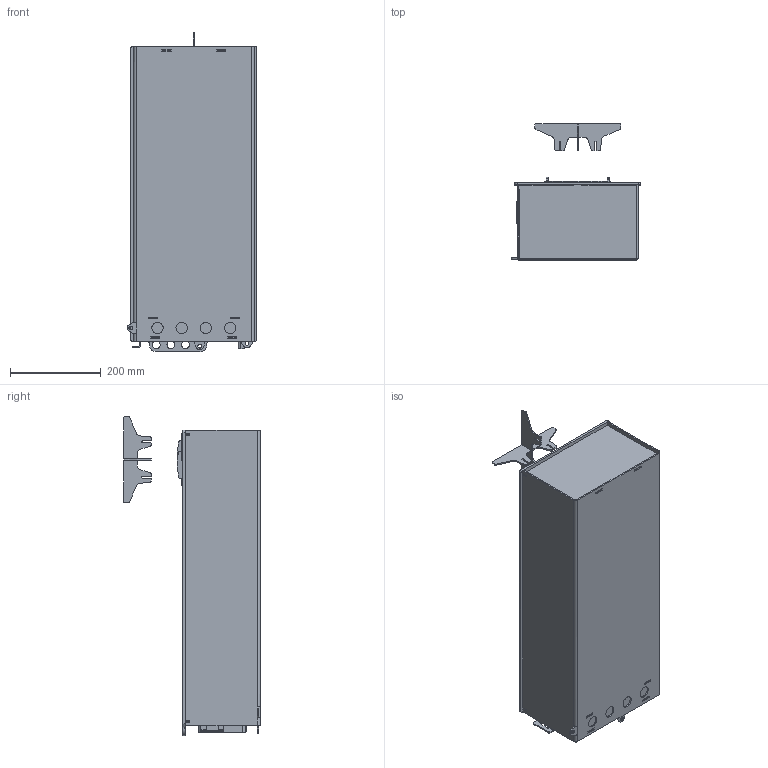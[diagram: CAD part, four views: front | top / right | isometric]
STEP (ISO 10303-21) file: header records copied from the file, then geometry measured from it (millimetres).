
FILE_DESCRIPTION((''),'2;1');
FILE_NAME('288079_ASM','2022-12-13T15:45:05',('vmorco'),(''),'CREO PARAMETRIC BY PTC INC, 2020454','CREO PARAMETRIC BY PTC INC, 2020454','');
FILE_SCHEMA(('AUTOMOTIVE_DESIGN { 1 0 10303 214 1 1 1 1 }'));
Length unit declared in the file: millimetre
Products named in the file (13): 288091; 288092; 288081; 288093; 288094; 288095; 288096; 288097; 288098; 288099; 288100; 288101; 288079_ASM
Assembly tree (14 placements, depth 2):
  288079_ASM
    288091
    288092
    288081
    288093
    288094  x2
    288095
    288096
    288097  x2
    288098
    288099
    288100
    288101
Bounding box: 284.87 x 300 x 702 mm (x, y, z)
Volume: 2389017.9 mm3; surface area: 1410241.9 mm2
Topology: 14 solids, 14 shells, 616 faces, 1762 edges, 1170 vertices
Faces by surface type: plane 344, cylinder 272
Entity records: 21991 total; most frequent: CARTESIAN_POINT 3402, DIRECTION 3354, ORIENTED_EDGE 3296, EDGE_CURVE 1648, VECTOR 1136, LINE 1136, AXIS2_PLACEMENT_3D 1109, VERTEX_POINT 1094
